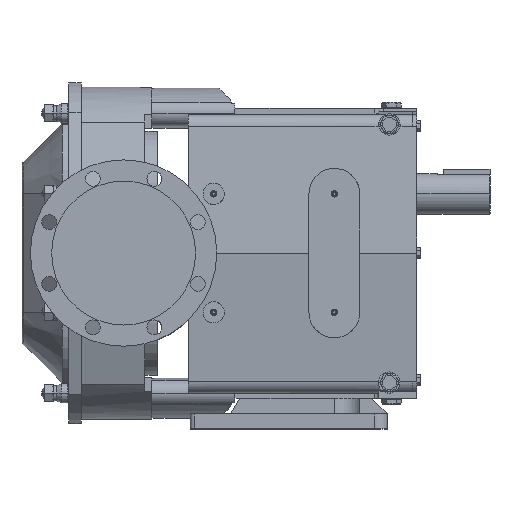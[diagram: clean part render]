
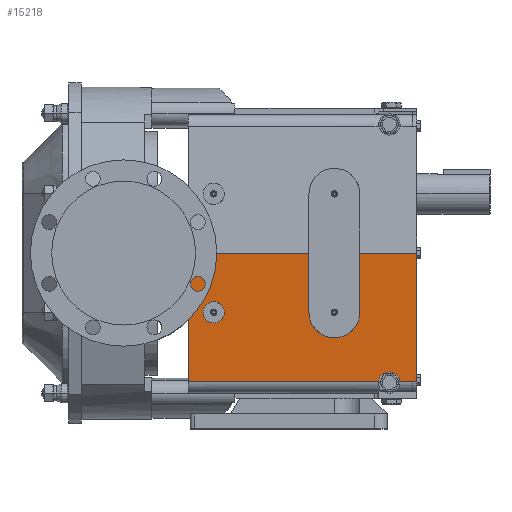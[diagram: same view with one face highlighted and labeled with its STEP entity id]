
A CAD part, top view. The second image highlights one B-rep face of the part: STEP entity #15218.
In plain terms, the highlighted planar face has unit normal (0, -0.087, 0.996).
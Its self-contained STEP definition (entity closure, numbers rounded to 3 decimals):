
#868 = ORIENTED_EDGE ( 'NONE', *, *, #15123, .T. ) ;
#1648 = EDGE_CURVE ( 'NONE', #1733, #1712, #20915, .T. ) ;
#1669 = EDGE_CURVE ( 'NONE', #1694, #1670, #21055, .T. ) ;
#1670 = VERTEX_POINT ( 'NONE', #21059 ) ;
#1694 = VERTEX_POINT ( 'NONE', #21230 ) ;
#1712 = VERTEX_POINT ( 'NONE', #21267 ) ;
#1733 = VERTEX_POINT ( 'NONE', #21302 ) ;
#3750 = ORIENTED_EDGE ( 'NONE', *, *, #1648, .F. ) ;
#3751 = ORIENTED_EDGE ( 'NONE', *, *, #3752, .T. ) ;
#3752 = EDGE_CURVE ( 'NONE', #1733, #15084, #30571, .T. ) ;
#3753 = ORIENTED_EDGE ( 'NONE', *, *, #15082, .T. ) ;
#3754 = ORIENTED_EDGE ( 'NONE', *, *, #15011, .F. ) ;
#3755 = EDGE_LOOP ( 'NONE', ( #3756, #3757 ) ) ;
#3756 = ORIENTED_EDGE ( 'NONE', *, *, #1669, .F. ) ;
#3757 = ORIENTED_EDGE ( 'NONE', *, *, #3758, .F. ) ;
#3758 = EDGE_CURVE ( 'NONE', #1670, #1694, #30549, .T. ) ;
#14926 = VERTEX_POINT ( 'NONE', #38220 ) ;
#14986 = EDGE_CURVE ( 'NONE', #14987, #14926, #38295, .T. ) ;
#14987 = VERTEX_POINT ( 'NONE', #38291 ) ;
#14993 = VERTEX_POINT ( 'NONE', #38340 ) ;
#14995 = EDGE_CURVE ( 'NONE', #14996, #14993, #38339, .T. ) ;
#14996 = VERTEX_POINT ( 'NONE', #38335 ) ;
#15011 = EDGE_CURVE ( 'NONE', #14996, #15040, #38366, .T. ) ;
#15040 = VERTEX_POINT ( 'NONE', #38404 ) ;
#15082 = EDGE_CURVE ( 'NONE', #15084, #15040, #38415, .T. ) ;
#15084 = VERTEX_POINT ( 'NONE', #38411 ) ;
#15112 = EDGE_CURVE ( 'NONE', #15124, #14926, #38444, .T. ) ;
#15123 = EDGE_CURVE ( 'NONE', #15124, #1712, #38496, .T. ) ;
#15124 = VERTEX_POINT ( 'NONE', #38492 ) ;
#15148 = VERTEX_POINT ( 'NONE', #38573 ) ;
#15165 = EDGE_CURVE ( 'NONE', #14987, #15166, #38556, .T. ) ;
#15166 = VERTEX_POINT ( 'NONE', #38552 ) ;
#15217 = EDGE_CURVE ( 'NONE', #15148, #14993, #38690, .T. ) ;
#15218 = ADVANCED_FACE ( 'NONE', ( #38686, #38685 ), #38684, .F. ) ;
#15219 = EDGE_LOOP ( 'NONE', ( #15220, #15221, #15223, #15224, #15225, #15226, #868, #3750, #3751, #3753, #3754 ) ) ;
#15220 = ORIENTED_EDGE ( 'NONE', *, *, #14995, .T. ) ;
#15221 = ORIENTED_EDGE ( 'NONE', *, *, #15217, .F. ) ;
#15223 = ORIENTED_EDGE ( 'NONE', *, *, #15230, .F. ) ;
#15224 = ORIENTED_EDGE ( 'NONE', *, *, #15165, .F. ) ;
#15225 = ORIENTED_EDGE ( 'NONE', *, *, #14986, .T. ) ;
#15226 = ORIENTED_EDGE ( 'NONE', *, *, #15112, .F. ) ;
#15230 = EDGE_CURVE ( 'NONE', #15166, #15148, #38677, .T. ) ;
#20906 = CARTESIAN_POINT ( 'NONE',  ( 13.387, -7.579, 4.337 ) ) ;
#20907 = CARTESIAN_POINT ( 'NONE',  ( 13.491, -6.548, 4.427 ) ) ;
#20910 = CARTESIAN_POINT ( 'NONE',  ( 14.526, -6.548, 4.427 ) ) ;
#20912 = CARTESIAN_POINT ( 'NONE',  ( 14.63, -7.579, 4.337 ) ) ;
#20915 =( BOUNDED_CURVE ( )  B_SPLINE_CURVE ( 3, ( #20912, #20910, #20907, #20906 ),
 .UNSPECIFIED., .F., .T. ) 
 B_SPLINE_CURVE_WITH_KNOTS ( ( 4, 4 ),
 ( 4.813, 7.753 ),
 .UNSPECIFIED. ) 
 CURVE ( )  GEOMETRIC_REPRESENTATION_ITEM ( )  RATIONAL_B_SPLINE_CURVE ( ( 1., 0.4, 0.4, 1. ) ) 
 REPRESENTATION_ITEM ( '' )  );
#21043 = CARTESIAN_POINT ( 'NONE',  ( 3.025, -3.5, 4.694 ) ) ;
#21045 = CARTESIAN_POINT ( 'NONE',  ( 3.025, -2.25, 4.803 ) ) ;
#21047 = CARTESIAN_POINT ( 'NONE',  ( 4.275, -2.25, 4.803 ) ) ;
#21049 = CARTESIAN_POINT ( 'NONE',  ( 4.275, -3.5, 4.694 ) ) ;
#21055 =( BOUNDED_CURVE ( )  B_SPLINE_CURVE ( 3, ( #21049, #21047, #21045, #21043 ),
 .UNSPECIFIED., .F., .T. ) 
 B_SPLINE_CURVE_WITH_KNOTS ( ( 4, 4 ),
 ( 4.712, 7.854 ),
 .UNSPECIFIED. ) 
 CURVE ( )  GEOMETRIC_REPRESENTATION_ITEM ( )  RATIONAL_B_SPLINE_CURVE ( ( 1., 0.333, 0.333, 1. ) ) 
 REPRESENTATION_ITEM ( '' )  );
#21059 = CARTESIAN_POINT ( 'NONE',  ( 3.025, -3.5, 4.694 ) ) ;
#21230 = CARTESIAN_POINT ( 'NONE',  ( 4.275, -3.5, 4.694 ) ) ;
#21267 = CARTESIAN_POINT ( 'NONE',  ( 13.387, -7.579, 4.337 ) ) ;
#21302 = CARTESIAN_POINT ( 'NONE',  ( 14.63, -7.579, 4.337 ) ) ;
#30538 = CARTESIAN_POINT ( 'NONE',  ( 4.275, -3.5, 4.694 ) ) ;
#30540 = CARTESIAN_POINT ( 'NONE',  ( 4.275, -4.75, 4.584 ) ) ;
#30542 = CARTESIAN_POINT ( 'NONE',  ( 3.025, -4.75, 4.584 ) ) ;
#30543 = CARTESIAN_POINT ( 'NONE',  ( 3.025, -3.5, 4.694 ) ) ;
#30549 =( BOUNDED_CURVE ( )  B_SPLINE_CURVE ( 3, ( #30543, #30542, #30540, #30538 ),
 .UNSPECIFIED., .F., .T. ) 
 B_SPLINE_CURVE_WITH_KNOTS ( ( 4, 4 ),
 ( 1.571, 4.712 ),
 .UNSPECIFIED. ) 
 CURVE ( )  GEOMETRIC_REPRESENTATION_ITEM ( )  RATIONAL_B_SPLINE_CURVE ( ( 1., 0.333, 0.333, 1. ) ) 
 REPRESENTATION_ITEM ( '' )  );
#30557 = DIRECTION ( 'NONE',  ( 1., 0., 0. ) ) ;
#30558 = VECTOR ( 'NONE', #30557, 39.37 ) ;
#30560 = CARTESIAN_POINT ( 'NONE',  ( 15.4, -7.579, 4.337 ) ) ;
#30571 = LINE ( 'NONE', #30560, #30558 ) ;
#38220 = CARTESIAN_POINT ( 'NONE',  ( 2.154, 0., 5. ) ) ;
#38291 = CARTESIAN_POINT ( 'NONE',  ( 9.28, 0., 5. ) ) ;
#38292 = DIRECTION ( 'NONE',  ( -1., 0., 0. ) ) ;
#38293 = VECTOR ( 'NONE', #38292, 39.37 ) ;
#38294 = CARTESIAN_POINT ( 'NONE',  ( 15.4, 0., 5. ) ) ;
#38295 = LINE ( 'NONE', #38294, #38293 ) ;
#38335 = CARTESIAN_POINT ( 'NONE',  ( 15.65, 0., 5. ) ) ;
#38336 = DIRECTION ( 'NONE',  ( -1., 0., 0. ) ) ;
#38337 = VECTOR ( 'NONE', #38336, 39.37 ) ;
#38338 = CARTESIAN_POINT ( 'NONE',  ( 15.65, 0., 5. ) ) ;
#38339 = LINE ( 'NONE', #38338, #38337 ) ;
#38340 = CARTESIAN_POINT ( 'NONE',  ( 12.28, 0., 5. ) ) ;
#38363 = DIRECTION ( 'NONE',  ( 0., -0.996, -0.087 ) ) ;
#38364 = VECTOR ( 'NONE', #38363, 39.37 ) ;
#38365 = CARTESIAN_POINT ( 'NONE',  ( 15.65, 0., 5. ) ) ;
#38366 = LINE ( 'NONE', #38365, #38364 ) ;
#38404 = CARTESIAN_POINT ( 'NONE',  ( 15.65, -7.578, 4.337 ) ) ;
#38411 = CARTESIAN_POINT ( 'NONE',  ( 15.4, -7.578, 4.337 ) ) ;
#38412 = DIRECTION ( 'NONE',  ( 1., 0., 0. ) ) ;
#38413 = VECTOR ( 'NONE', #38412, 39.37 ) ;
#38414 = CARTESIAN_POINT ( 'NONE',  ( 15.65, -7.578, 4.337 ) ) ;
#38415 = LINE ( 'NONE', #38414, #38413 ) ;
#38441 = DIRECTION ( 'NONE',  ( 0., 0.996, 0.087 ) ) ;
#38442 = VECTOR ( 'NONE', #38441, 39.37 ) ;
#38443 = CARTESIAN_POINT ( 'NONE',  ( 2.154, -9., 4.213 ) ) ;
#38444 = LINE ( 'NONE', #38443, #38442 ) ;
#38492 = CARTESIAN_POINT ( 'NONE',  ( 2.154, -7.579, 4.337 ) ) ;
#38493 = DIRECTION ( 'NONE',  ( 1., 0., 0. ) ) ;
#38494 = VECTOR ( 'NONE', #38493, 39.37 ) ;
#38495 = CARTESIAN_POINT ( 'NONE',  ( 15.4, -7.579, 4.337 ) ) ;
#38496 = LINE ( 'NONE', #38495, #38494 ) ;
#38552 = CARTESIAN_POINT ( 'NONE',  ( 9.28, -3.5, 4.694 ) ) ;
#38553 = DIRECTION ( 'NONE',  ( 0., -0.996, -0.087 ) ) ;
#38554 = VECTOR ( 'NONE', #38553, 39.37 ) ;
#38555 = CARTESIAN_POINT ( 'NONE',  ( 9.28, -1713.043, -144.872 ) ) ;
#38556 = LINE ( 'NONE', #38555, #38554 ) ;
#38573 = CARTESIAN_POINT ( 'NONE',  ( 12.28, -3.5, 4.694 ) ) ;
#38673 = CARTESIAN_POINT ( 'NONE',  ( 12.28, -3.5, 4.694 ) ) ;
#38674 = CARTESIAN_POINT ( 'NONE',  ( 12.28, -6.5, 4.431 ) ) ;
#38675 = CARTESIAN_POINT ( 'NONE',  ( 9.28, -6.5, 4.431 ) ) ;
#38676 = CARTESIAN_POINT ( 'NONE',  ( 9.28, -3.5, 4.694 ) ) ;
#38677 =( BOUNDED_CURVE ( )  B_SPLINE_CURVE ( 3, ( #38676, #38675, #38674, #38673 ),
 .UNSPECIFIED., .F., .T. ) 
 B_SPLINE_CURVE_WITH_KNOTS ( ( 4, 4 ),
 ( 1.571, 4.712 ),
 .UNSPECIFIED. ) 
 CURVE ( )  GEOMETRIC_REPRESENTATION_ITEM ( )  RATIONAL_B_SPLINE_CURVE ( ( 1., 0.333, 0.333, 1. ) ) 
 REPRESENTATION_ITEM ( '' )  );
#38680 = DIRECTION ( 'NONE',  ( 0., 0.996, 0.087 ) ) ;
#38681 = DIRECTION ( 'NONE',  ( 0., 0.087, -0.996 ) ) ;
#38682 = CARTESIAN_POINT ( 'NONE',  ( 15.65, 0., 5. ) ) ;
#38683 = AXIS2_PLACEMENT_3D ( 'NONE', #38682, #38681, #38680 ) ;
#38684 = PLANE ( 'NONE',  #38683 ) ;
#38685 = FACE_BOUND ( 'NONE', #3755, .T. ) ;
#38686 = FACE_OUTER_BOUND ( 'NONE', #15219, .T. ) ;
#38687 = DIRECTION ( 'NONE',  ( 0., 0.996, 0.087 ) ) ;
#38688 = VECTOR ( 'NONE', #38687, 39.37 ) ;
#38689 = CARTESIAN_POINT ( 'NONE',  ( 12.28, -1706.096, -144.264 ) ) ;
#38690 = LINE ( 'NONE', #38689, #38688 ) ;
